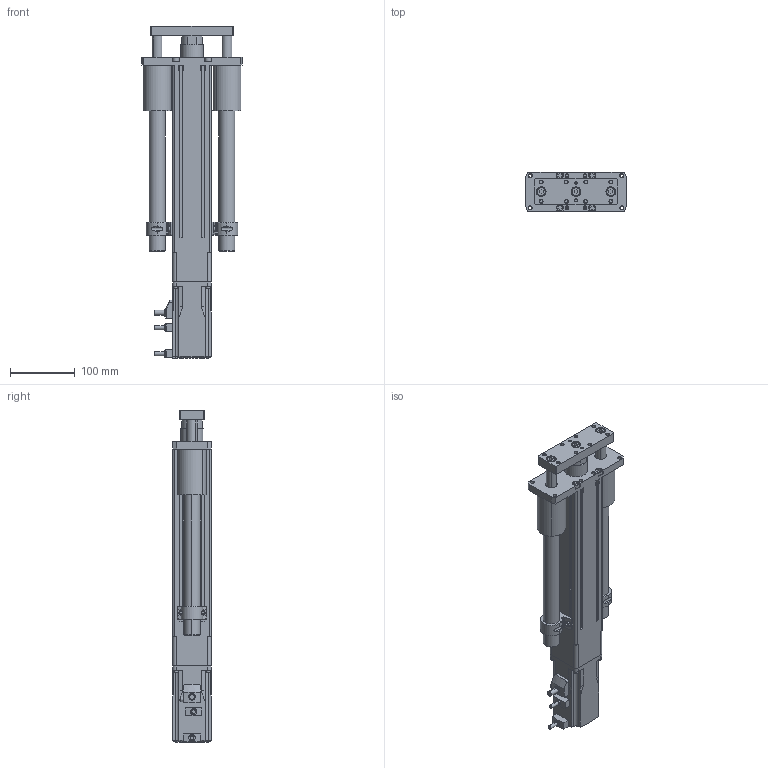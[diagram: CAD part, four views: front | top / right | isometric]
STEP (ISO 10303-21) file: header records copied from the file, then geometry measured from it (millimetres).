
FILE_DESCRIPTION (( 'STEP AP203' ), '1' );
FILE_NAME ('EACM6WD20AZMK-G.step', '2015-07-08T14:54:28', ( 'om' ), ( 'Hewlett-Packard Company' ), 'SwSTEP 2.0', 'SolidWorks 2014', '' );
FILE_SCHEMA (( 'CONFIG_CONTROL_DESIGN' ));
Length unit declared in the file: millimetre
Products named in the file (4): EACM6WD20AZMK-G_BASE; EACM6WD20AZMK-G_Rod; EACM6WD20AZMK-G; EACM6WD20AZMK-G_Motor
Assembly tree (3 placements, depth 2):
  EACM6WD20AZMK-G
    EACM6WD20AZMK-G_Motor
    EACM6WD20AZMK-G_BASE
    EACM6WD20AZMK-G_Rod
Bounding box: 156 x 60 x 514.7 mm (x, y, z)
Volume: 2143371.4 mm3; surface area: 397283.6 mm2
Topology: 3 solids, 15 shells, 929 faces, 2267 edges, 1441 vertices
Faces by surface type: plane 487, cylinder 294, cone 110, torus 25, bspline 9, sphere 4
Entity records: 28334 total; most frequent: CARTESIAN_POINT 5545, DIRECTION 4803, ORIENTED_EDGE 4518, EDGE_CURVE 2259, AXIS2_PLACEMENT_3D 1697, VERTEX_POINT 1441, LINE 1409, VECTOR 1409
